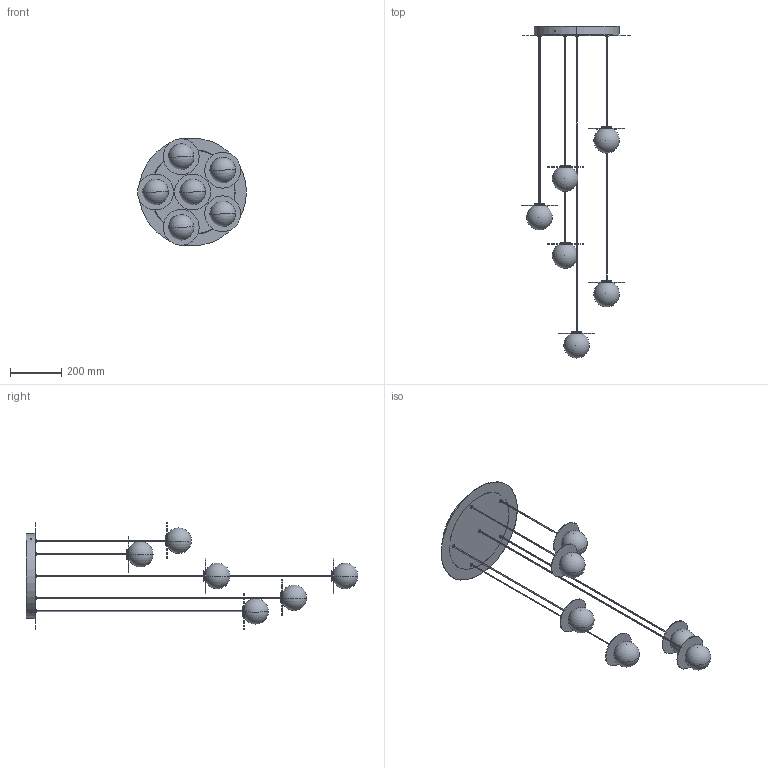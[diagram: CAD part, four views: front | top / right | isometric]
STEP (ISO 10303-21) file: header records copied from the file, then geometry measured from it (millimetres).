
FILE_DESCRIPTION (( 'STEP AP203' ), '1' );
FILE_NAME ('SPKI1006XXXXXXX-PER 3D.STEP', '2025-06-25T09:00:22', ( '' ), ( '' ), 'SwSTEP 2.0', 'SolidWorks 2024', '' );
FILE_SCHEMA (( 'CONFIG_CONTROL_DESIGN' ));
Length unit declared in the file: millimetre
Products named in the file (20): WSCM2C0201-0700-02_WSCM2C0201-0700-02; WSASS-000000059-00; CAVO NL2CN; PENDENTE SPKI1001-00; WSCM2C0205-0100-00; WSCM2A0156-0700-01; SPKI1006XXXXXXX-PER 3D; WSM2G1522-FR------; WSVAXXX0100BC7XX00; WSCM2F0028-0100-00_Default<按加工>
Assembly tree (39 placements, depth 3):
  SPKI1006XXXXXXX-PER 3D
    WSASS-000000059-00
      WSCM2F0028-0100-00_Default<按加工>
      WSCM2C0205-0100-00
      WSM2G1522-FR------  x6
    PENDENTE SPKI1001-00
      WSCM2C0201-0700-02_WSCM2C0201-0700-02
      WSVAXXX0100BC7XX00
      CAVO NL2CN
      WSCM2A0156-0700-01
    PENDENTE SPKI1001-00
      WSCM2C0201-0700-02_WSCM2C0201-0700-02
      WSVAXXX0100BC7XX00
      CAVO NL2CN
      WSCM2A0156-0700-01
    PENDENTE SPKI1001-00
      WSCM2C0201-0700-02_WSCM2C0201-0700-02
      WSVAXXX0100BC7XX00
      CAVO NL2CN
      WSCM2A0156-0700-01
    PENDENTE SPKI1001-00
      WSCM2C0201-0700-02_WSCM2C0201-0700-02
      WSVAXXX0100BC7XX00
      CAVO NL2CN
      WSCM2A0156-0700-01
    PENDENTE SPKI1001-00
      WSCM2C0201-0700-02_WSCM2C0201-0700-02
      WSVAXXX0100BC7XX00
      CAVO NL2CN
      WSCM2A0156-0700-01
    PENDENTE SPKI1001-00
      WSCM2C0201-0700-02_WSCM2C0201-0700-02
      WSVAXXX0100BC7XX00
      CAVO NL2CN
      WSCM2A0156-0700-01
Bounding box: 425 x 1296.13 x 420 mm (x, y, z)
Volume: 1234782.3 mm3; surface area: 1140534 mm2
Topology: 32 solids, 32 shells, 573 faces, 1352 edges, 844 vertices
Faces by surface type: cylinder 240, cone 168, plane 137, sphere 24, torus 4
Entity records: 8236 total; most frequent: CARTESIAN_POINT 1266, DIRECTION 1020, ORIENTED_EDGE 804, AXIS2_PLACEMENT_3D 412, EDGE_CURVE 402, VERTEX_POINT 258, EDGE_LOOP 224, PERSON_AND_ORGANIZATION 199
